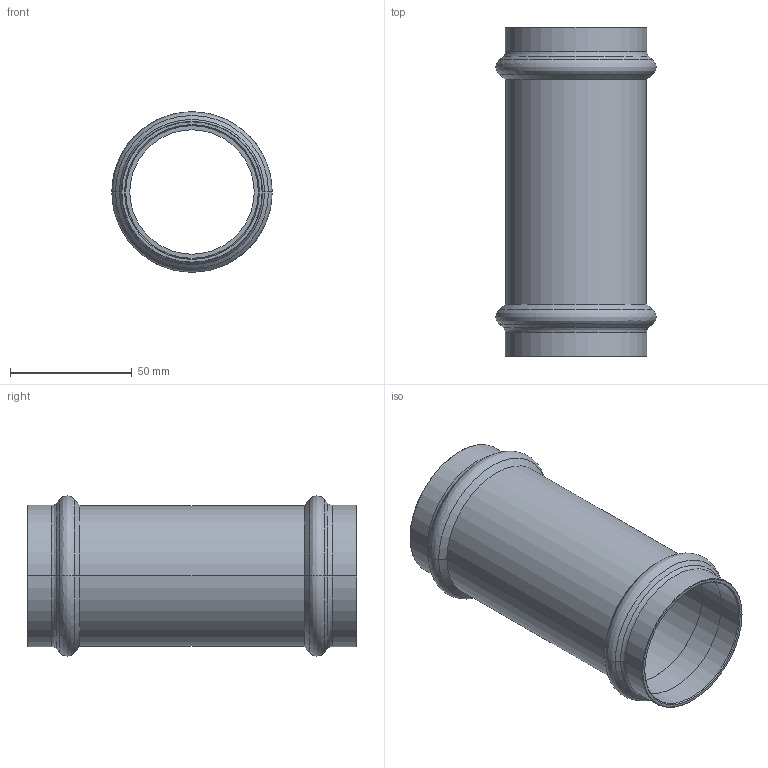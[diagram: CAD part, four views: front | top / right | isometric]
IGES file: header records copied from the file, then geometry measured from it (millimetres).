
Start section: Elysium IGES Interface
Global section: file name: C:\Users\Wallenburg\Desktop\3d modellen sudo\S-Pr VP\SP6275V\6275VW54.igs; native system: CoCreate Modeling 17.00A  17-Jun-2010; preprocessor: CoCreate IGES_3D V2.2; author: Unknown; organization: Unknown; date: 20130110.145229; units: millimetre
Bounding box: 65.68 x 135 x 65.65 mm (x, y, z)
Volume: 51399.3 mm3; surface area: 50671.5 mm2
Topology: 1 solids, 1 shells, 58 faces, 116 edges, 64 vertices
Faces by surface type: bspline 58
